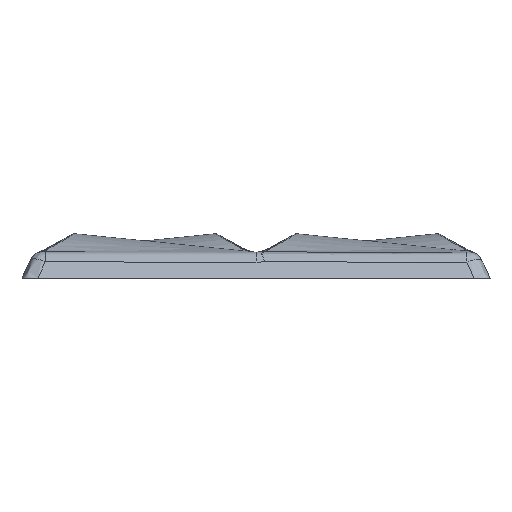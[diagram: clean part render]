
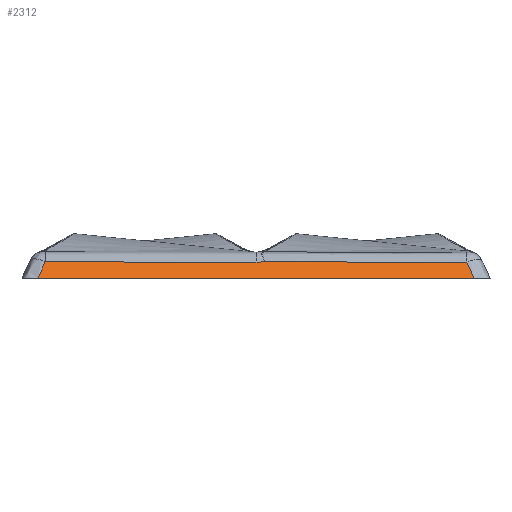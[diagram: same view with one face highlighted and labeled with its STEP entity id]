
A CAD part, left-side view. The second image highlights one B-rep face of the part: STEP entity #2312.
In plain terms, the highlighted planar face has unit normal (-0.906, 0, 0.423).
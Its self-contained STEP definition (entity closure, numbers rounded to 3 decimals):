
#609 = VERTEX_POINT ( 'NONE', #25337 ) ;
#885 = CARTESIAN_POINT ( 'NONE',  ( -130.66, -2.358, -5.694 ) ) ;
#1454 = B_SPLINE_CURVE_WITH_KNOTS ( 'NONE', 3,
 ( #13940, #20809, #24668, #24947 ),
 .UNSPECIFIED., .F., .F.,
 ( 4, 4 ),
 ( 0.368, 1. ),
 .UNSPECIFIED. ) ;
#1881 = LINE ( 'NONE', #4567, #15221 ) ;
#2312 = ADVANCED_FACE ( 'NONE', ( #17545 ), #26259, .T. ) ;
#2358 = VERTEX_POINT ( 'NONE', #13804 ) ;
#2741 = CARTESIAN_POINT ( 'NONE',  ( -130.66, -2.35, -5.695 ) ) ;
#2964 = EDGE_CURVE ( 'NONE', #609, #18598, #3827, .T. ) ;
#3827 = B_SPLINE_CURVE_WITH_KNOTS ( 'NONE', 3,
 ( #16025, #24194, #24750, #26603, #22326, #26882, #885, #2741, #22466, #13448, #7440, #7160, #24332, #11310, #11731, #26742 ),
 .UNSPECIFIED., .F., .F.,
 ( 4, 1, 1, 1, 1, 1, 1, 1, 1, 2, 2, 4 ),
 ( 0., 0.25, 0.375, 0.438, 0.469, 0.484, 0.492, 0.496, 0.498, 0.499, 0.5, 1. ),
 .UNSPECIFIED. ) ;
#4530 = DIRECTION ( 'NONE',  ( 0.423, 0., 0.906 ) ) ;
#4567 = CARTESIAN_POINT ( 'NONE',  ( -135., 128.005, -15. ) ) ;
#5579 = CARTESIAN_POINT ( 'NONE',  ( -130.652, 36.236, -5.677 ) ) ;
#5761 = CARTESIAN_POINT ( 'NONE',  ( -130.69, -121.627, -5.757 ) ) ;
#6673 = CARTESIAN_POINT ( 'NONE',  ( -128.005, 128.005, 0. ) ) ;
#6814 = CARTESIAN_POINT ( 'NONE',  ( -130.611, -47.731, -5.588 ) ) ;
#7160 = CARTESIAN_POINT ( 'NONE',  ( -130.661, -2.344, -5.695 ) ) ;
#7297 = CARTESIAN_POINT ( 'NONE',  ( -130.58, 121.517, -5.523 ) ) ;
#7440 = CARTESIAN_POINT ( 'NONE',  ( -130.661, -2.344, -5.695 ) ) ;
#7896 = CARTESIAN_POINT ( 'NONE',  ( -133.563, -124.5, -11.919 ) ) ;
#8110 = B_SPLINE_CURVE_WITH_KNOTS ( 'NONE', 3,
 ( #24887, #5579, #20324, #7297 ),
 .UNSPECIFIED., .F., .F.,
 ( 4, 4 ),
 ( 0., 1. ),
 .UNSPECIFIED. ) ;
#8567 = VERTEX_POINT ( 'NONE', #11203 ) ;
#8707 = VERTEX_POINT ( 'NONE', #16055 ) ;
#9125 = EDGE_CURVE ( 'NONE', #8567, #20669, #1881, .T. ) ;
#10582 = ORIENTED_EDGE ( 'NONE', *, *, #9125, .T. ) ;
#11203 = CARTESIAN_POINT ( 'NONE',  ( -135., 125.937, -15. ) ) ;
#11310 = CARTESIAN_POINT ( 'NONE',  ( -130.685, -1.5, -5.748 ) ) ;
#11531 = EDGE_CURVE ( 'NONE', #8707, #609, #19181, .T. ) ;
#11731 = CARTESIAN_POINT ( 'NONE',  ( -130.697, -0.719, -5.774 ) ) ;
#12187 = ORIENTED_EDGE ( 'NONE', *, *, #2964, .T. ) ;
#12685 = CARTESIAN_POINT ( 'NONE',  ( -130.69, -121.627, -5.757 ) ) ;
#13448 = CARTESIAN_POINT ( 'NONE',  ( -130.661, -2.345, -5.695 ) ) ;
#13804 = CARTESIAN_POINT ( 'NONE',  ( -130.58, 121.517, -5.523 ) ) ;
#13940 = CARTESIAN_POINT ( 'NONE',  ( -130.58, 121.517, -5.523 ) ) ;
#15153 = DIRECTION ( 'NONE',  ( 0., -1., 0. ) ) ;
#15221 = VECTOR ( 'NONE', #15153, 1000. ) ;
#15532 = DIRECTION ( 'NONE',  ( -0.906, 0., 0.423 ) ) ;
#15669 = CARTESIAN_POINT ( 'NONE',  ( -130.579, -4.681, -5.52 ) ) ;
#16025 = CARTESIAN_POINT ( 'NONE',  ( -130.579, -4.681, -5.52 ) ) ;
#16055 = CARTESIAN_POINT ( 'NONE',  ( -130.69, -121.627, -5.757 ) ) ;
#16622 = CARTESIAN_POINT ( 'NONE',  ( -132.126, -123.063, -8.838 ) ) ;
#16910 = CARTESIAN_POINT ( 'NONE',  ( -135., -125.937, -15. ) ) ;
#17545 = FACE_OUTER_BOUND ( 'NONE', #27479, .T. ) ;
#18598 = VERTEX_POINT ( 'NONE', #24823 ) ;
#19181 = B_SPLINE_CURVE_WITH_KNOTS ( 'NONE', 3,
 ( #12685, #19281, #6814, #15669 ),
 .UNSPECIFIED., .F., .F.,
 ( 4, 4 ),
 ( 0., 1. ),
 .UNSPECIFIED. ) ;
#19281 = CARTESIAN_POINT ( 'NONE',  ( -130.647, -86.713, -5.667 ) ) ;
#20324 = CARTESIAN_POINT ( 'NONE',  ( -130.613, 76.741, -5.594 ) ) ;
#20527 = B_SPLINE_CURVE_WITH_KNOTS ( 'NONE', 3,
 ( #16910, #7896, #16622, #5761 ),
 .UNSPECIFIED., .F., .F.,
 ( 4, 4 ),
 ( 0., 0.616 ),
 .UNSPECIFIED. ) ;
#20669 = VERTEX_POINT ( 'NONE', #21411 ) ;
#20809 = CARTESIAN_POINT ( 'NONE',  ( -132.053, 122.99, -8.682 ) ) ;
#21411 = CARTESIAN_POINT ( 'NONE',  ( -135., -125.937, -15. ) ) ;
#21532 = EDGE_CURVE ( 'NONE', #18598, #2358, #8110, .T. ) ;
#21945 = ORIENTED_EDGE ( 'NONE', *, *, #11531, .T. ) ;
#22326 = CARTESIAN_POINT ( 'NONE',  ( -130.658, -2.431, -5.689 ) ) ;
#22466 = CARTESIAN_POINT ( 'NONE',  ( -130.66, -2.347, -5.695 ) ) ;
#23321 = EDGE_CURVE ( 'NONE', #2358, #8567, #1454, .T. ) ;
#24194 = CARTESIAN_POINT ( 'NONE',  ( -130.604, -3.96, -5.575 ) ) ;
#24332 = CARTESIAN_POINT ( 'NONE',  ( -130.661, -2.345, -5.695 ) ) ;
#24488 = EDGE_CURVE ( 'NONE', #20669, #8707, #20527, .T. ) ;
#24541 = ORIENTED_EDGE ( 'NONE', *, *, #23321, .T. ) ;
#24600 = ORIENTED_EDGE ( 'NONE', *, *, #21532, .T. ) ;
#24668 = CARTESIAN_POINT ( 'NONE',  ( -133.526, 124.463, -11.841 ) ) ;
#24750 = CARTESIAN_POINT ( 'NONE',  ( -130.634, -3.128, -5.637 ) ) ;
#24823 = CARTESIAN_POINT ( 'NONE',  ( -130.697, 0., -5.774 ) ) ;
#24887 = CARTESIAN_POINT ( 'NONE',  ( -130.697, 0., -5.774 ) ) ;
#24947 = CARTESIAN_POINT ( 'NONE',  ( -135., 125.937, -15. ) ) ;
#25337 = CARTESIAN_POINT ( 'NONE',  ( -130.579, -4.681, -5.52 ) ) ;
#26259 = PLANE ( 'NONE',  #26682 ) ;
#26603 = CARTESIAN_POINT ( 'NONE',  ( -130.652, -2.591, -5.677 ) ) ;
#26682 = AXIS2_PLACEMENT_3D ( 'NONE', #6673, #15532, #4530 ) ;
#26742 = CARTESIAN_POINT ( 'NONE',  ( -130.697, 0., -5.774 ) ) ;
#26882 = CARTESIAN_POINT ( 'NONE',  ( -130.66, -2.378, -5.693 ) ) ;
#27479 = EDGE_LOOP ( 'NONE', ( #27512, #21945, #12187, #24600, #24541, #10582 ) ) ;
#27512 = ORIENTED_EDGE ( 'NONE', *, *, #24488, .T. ) ;
